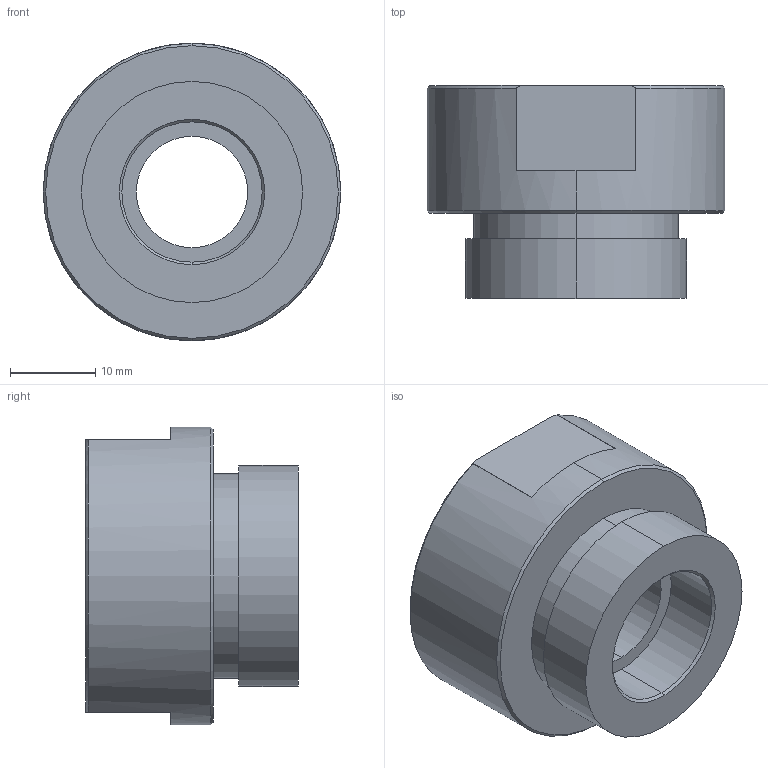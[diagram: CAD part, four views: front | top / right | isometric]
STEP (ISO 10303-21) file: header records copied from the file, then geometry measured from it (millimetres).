
FILE_DESCRIPTION (( 'STEP AP203' ), '1' );
FILE_NAME ('135MO-13.1.STEP', '2022-04-13T07:45:27', ( '' ), ( '' ), 'SwSTEP 2.0', 'SolidWorks 2015', '' );
FILE_SCHEMA (( 'CONFIG_CONTROL_DESIGN' ));
Length unit declared in the file: millimetre
Products named in the file (2): 135MO-13.1
Bounding box: 35 x 25 x 35 mm (x, y, z)
Volume: 15285.6 mm3; surface area: 5313.1 mm2
Topology: 1 solids, 1 shells, 29 faces, 68 edges, 44 vertices
Faces by surface type: plane 13, cylinder 10, cone 6
Entity records: 1007 total; most frequent: CARTESIAN_POINT 167, DIRECTION 152, ORIENTED_EDGE 136, EDGE_CURVE 68, AXIS2_PLACEMENT_3D 61, VERTEX_POINT 44, EDGE_LOOP 34, CIRCLE 30
